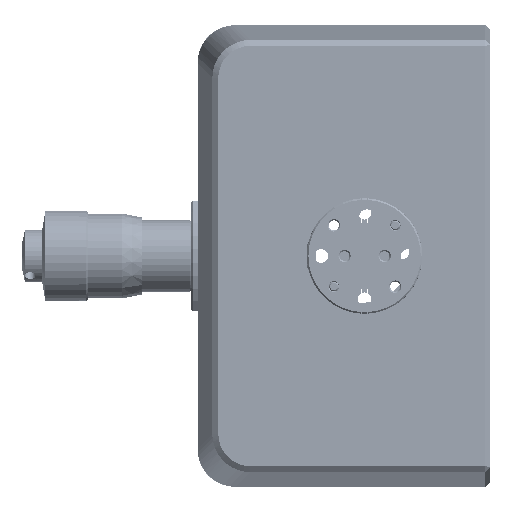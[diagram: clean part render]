
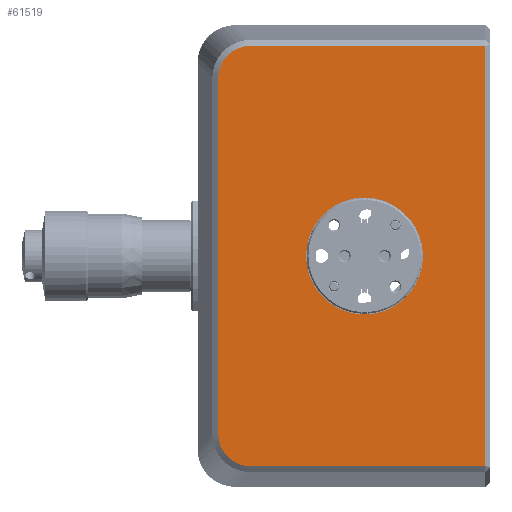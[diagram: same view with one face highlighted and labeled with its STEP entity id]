
A CAD part, left-side view. The second image highlights one B-rep face of the part: STEP entity #61519.
In plain terms, the highlighted planar face has unit normal (-1, 0, 0).
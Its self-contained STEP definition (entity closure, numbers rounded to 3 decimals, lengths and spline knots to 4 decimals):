
#7301 = CARTESIAN_POINT ( 'NONE',  ( -4.25, -6.738, 1.3234 ) ) ;
#11039 = CARTESIAN_POINT ( 'NONE',  ( -4.25, -6.6578, 1.1837 ) ) ;
#12792 = B_SPLINE_CURVE_WITH_KNOTS ( 'NONE', 3,
 ( #208179, #15939, #111439, #93585, #167484, #68190, #88565, #166229, #145867, #150899 ),
 .UNSPECIFIED., .F., .F.,
 ( 4, 2, 2, 2, 4 ),
 ( 0., 0.25, 0.5, 0.75, 1. ),
 .UNSPECIFIED. ) ;
#15939 = CARTESIAN_POINT ( 'NONE',  ( -4.25, -6.6578, -1.1836 ) ) ;
#24384 = CARTESIAN_POINT ( 'NONE',  ( -4.25, -7.4729, 0. ) ) ;
#34555 = ORIENTED_EDGE ( 'NONE', *, *, #50849, .T. ) ;
#34910 = VERTEX_POINT ( 'NONE', #95434 ) ;
#35376 = EDGE_CURVE ( 'NONE', #34910, #233763, #60267, .T. ) ;
#35873 = CARTESIAN_POINT ( 'NONE',  ( -4.25, -8.3929, 1.3651 ) ) ;
#42986 = CARTESIAN_POINT ( 'NONE',  ( -4.25, -6.8392, 1.3651 ) ) ;
#44729 = FACE_BOUND ( 'NONE', #100219, .T. ) ;
#47984 = CARTESIAN_POINT ( 'NONE',  ( -4.25, -6.6632, 1.2111 ) ) ;
#50849 = EDGE_CURVE ( 'NONE', #177054, #232145, #168949, .T. ) ;
#55686 = DIRECTION ( 'NONE',  ( -1., 0., 0. ) ) ;
#60267 = CIRCLE ( 'NONE', #170043, 0.38 ) ;
#61224 = VERTEX_POINT ( 'NONE', #61306 ) ;
#61306 = CARTESIAN_POINT ( 'NONE',  ( -4.25, -6.8667, 1.3651 ) ) ;
#61519 = ADVANCED_FACE ( 'NONE', ( #44729, #127396 ), #105751, .F. ) ;
#62062 = CARTESIAN_POINT ( 'NONE',  ( -4.25, -6.8667, 1.3651 ) ) ;
#68190 = CARTESIAN_POINT ( 'NONE',  ( -4.25, -6.738, -1.3234 ) ) ;
#69077 = EDGE_CURVE ( 'NONE', #232145, #61224, #143991, .T. ) ;
#69559 = CARTESIAN_POINT ( 'NONE',  ( -4.25, -6.8117, 1.3596 ) ) ;
#70219 = VERTEX_POINT ( 'NONE', #217234 ) ;
#71192 = VERTEX_POINT ( 'NONE', #139003 ) ;
#72480 = EDGE_CURVE ( 'NONE', #71192, #70219, #12792, .T. ) ;
#82922 = DIRECTION ( 'NONE',  ( 1., 0., 0. ) ) ;
#83450 = VECTOR ( 'NONE', #146461, 39.3701 ) ;
#88565 = CARTESIAN_POINT ( 'NONE',  ( -4.25, -6.7612, -1.3388 ) ) ;
#92445 = EDGE_CURVE ( 'NONE', #70219, #177054, #243247, .T. ) ;
#93585 = CARTESIAN_POINT ( 'NONE',  ( -4.25, -6.684, -1.2616 ) ) ;
#95434 = CARTESIAN_POINT ( 'NONE',  ( -4.25, -7.6079, 0.38 ) ) ;
#97446 = B_SPLINE_CURVE_WITH_KNOTS ( 'NONE', 3,
 ( #62062, #42986, #69559, #181660, #7301, #244013, #104021, #47984, #11039, #203244 ),
 .UNSPECIFIED., .F., .F.,
 ( 4, 2, 2, 2, 4 ),
 ( 0., 0.25, 0.5, 0.75, 1. ),
 .UNSPECIFIED. ) ;
#100219 = EDGE_LOOP ( 'NONE', ( #212424, #181021 ) ) ;
#101562 = ORIENTED_EDGE ( 'NONE', *, *, #92445, .T. ) ;
#101897 = CARTESIAN_POINT ( 'NONE',  ( -4.25, -6.6578, 1.1562 ) ) ;
#102021 = DIRECTION ( 'NONE',  ( 0., 0., -1. ) ) ;
#104021 = CARTESIAN_POINT ( 'NONE',  ( -4.25, -6.684, 1.2616 ) ) ;
#104551 = ORIENTED_EDGE ( 'NONE', *, *, #210827, .T. ) ;
#105751 = PLANE ( 'NONE',  #105915 ) ;
#105915 = AXIS2_PLACEMENT_3D ( 'NONE', #24384, #82922, #102021 ) ;
#108944 = EDGE_LOOP ( 'NONE', ( #153185, #101562, #34555, #232391, #104551, #188550 ) ) ;
#111439 = CARTESIAN_POINT ( 'NONE',  ( -4.25, -6.6632, -1.2111 ) ) ;
#112536 = VECTOR ( 'NONE', #230033, 39.3701 ) ;
#123211 = VECTOR ( 'NONE', #123612, 39.3701 ) ;
#123612 = DIRECTION ( 'NONE',  ( 0., 1., 0. ) ) ;
#127396 = FACE_OUTER_BOUND ( 'NONE', #108944, .T. ) ;
#127643 = LINE ( 'NONE', #209040, #196994 ) ;
#139003 = CARTESIAN_POINT ( 'NONE',  ( -4.25, -6.6578, -1.1562 ) ) ;
#141330 = VERTEX_POINT ( 'NONE', #101897 ) ;
#143991 = LINE ( 'NONE', #200002, #123211 ) ;
#145220 = CARTESIAN_POINT ( 'NONE',  ( -4.25, -7.4729, -1.3651 ) ) ;
#145867 = CARTESIAN_POINT ( 'NONE',  ( -4.25, -6.8392, -1.3651 ) ) ;
#146461 = DIRECTION ( 'NONE',  ( 0., -1., 0. ) ) ;
#150899 = CARTESIAN_POINT ( 'NONE',  ( -4.25, -6.8667, -1.3651 ) ) ;
#152221 = CARTESIAN_POINT ( 'NONE',  ( -4.25, -7.6079, -0.38 ) ) ;
#153185 = ORIENTED_EDGE ( 'NONE', *, *, #72480, .T. ) ;
#155268 = EDGE_CURVE ( 'NONE', #233763, #34910, #172760, .T. ) ;
#155504 = CARTESIAN_POINT ( 'NONE',  ( -4.25, -8.3929, -1.3651 ) ) ;
#166229 = CARTESIAN_POINT ( 'NONE',  ( -4.25, -6.8117, -1.3596 ) ) ;
#167484 = CARTESIAN_POINT ( 'NONE',  ( -4.25, -6.6995, -1.2849 ) ) ;
#168949 = LINE ( 'NONE', #246631, #112536 ) ;
#170043 = AXIS2_PLACEMENT_3D ( 'NONE', #190619, #55686, #189381 ) ;
#172760 = CIRCLE ( 'NONE', #237832, 0.38 ) ;
#177054 = VERTEX_POINT ( 'NONE', #155504 ) ;
#181021 = ORIENTED_EDGE ( 'NONE', *, *, #155268, .F. ) ;
#181660 = CARTESIAN_POINT ( 'NONE',  ( -4.25, -6.7612, 1.3388 ) ) ;
#188550 = ORIENTED_EDGE ( 'NONE', *, *, #206185, .T. ) ;
#189381 = DIRECTION ( 'NONE',  ( 0., 0., 1. ) ) ;
#190619 = CARTESIAN_POINT ( 'NONE',  ( -4.25, -7.6079, 0. ) ) ;
#191867 = DIRECTION ( 'NONE',  ( -1., 0., 0. ) ) ;
#196994 = VECTOR ( 'NONE', #223127, 39.3701 ) ;
#200002 = CARTESIAN_POINT ( 'NONE',  ( -4.25, -7.4729, 1.3651 ) ) ;
#203244 = CARTESIAN_POINT ( 'NONE',  ( -4.25, -6.6578, 1.1562 ) ) ;
#206185 = EDGE_CURVE ( 'NONE', #141330, #71192, #127643, .T. ) ;
#208179 = CARTESIAN_POINT ( 'NONE',  ( -4.25, -6.6578, -1.1562 ) ) ;
#209040 = CARTESIAN_POINT ( 'NONE',  ( -4.25, -6.6578, 0. ) ) ;
#210827 = EDGE_CURVE ( 'NONE', #61224, #141330, #97446, .T. ) ;
#212424 = ORIENTED_EDGE ( 'NONE', *, *, #35376, .F. ) ;
#214743 = CARTESIAN_POINT ( 'NONE',  ( -4.25, -7.6079, 0. ) ) ;
#217234 = CARTESIAN_POINT ( 'NONE',  ( -4.25, -6.8667, -1.3651 ) ) ;
#223127 = DIRECTION ( 'NONE',  ( 0., 0., -1. ) ) ;
#230033 = DIRECTION ( 'NONE',  ( 0., 0., 1. ) ) ;
#232145 = VERTEX_POINT ( 'NONE', #35873 ) ;
#232391 = ORIENTED_EDGE ( 'NONE', *, *, #69077, .T. ) ;
#233763 = VERTEX_POINT ( 'NONE', #152221 ) ;
#237832 = AXIS2_PLACEMENT_3D ( 'NONE', #214743, #191867, #251748 ) ;
#243247 = LINE ( 'NONE', #145220, #83450 ) ;
#244013 = CARTESIAN_POINT ( 'NONE',  ( -4.25, -6.6995, 1.2849 ) ) ;
#246631 = CARTESIAN_POINT ( 'NONE',  ( -4.25, -8.3929, 0. ) ) ;
#251748 = DIRECTION ( 'NONE',  ( 0., 0., 1. ) ) ;
